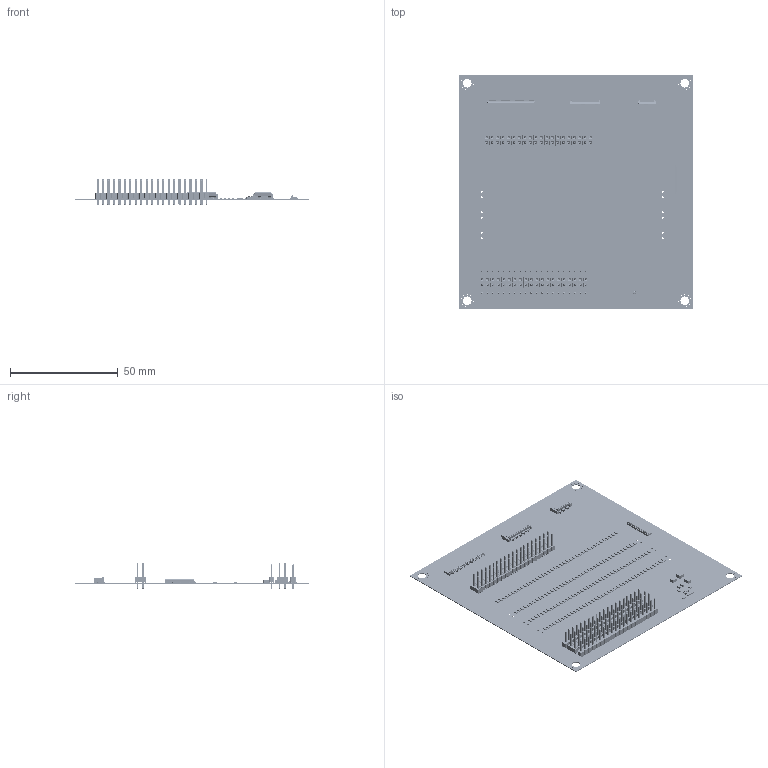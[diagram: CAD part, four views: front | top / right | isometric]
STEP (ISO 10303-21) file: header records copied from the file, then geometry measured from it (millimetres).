
FILE_DESCRIPTION (( 'STEP AP214' ), '1' );
FILE_NAME ('cfa_10102.STEP', '2020-08-27T22:46:13', ( '' ), ( '' ), 'SwSTEP 2.0', 'SolidWorks 2020', '' );
FILE_SCHEMA (( 'AUTOMOTIVE_DESIGN' ));
Length unit declared in the file: millimetre
Products named in the file (1): cfa_10102
Bounding box: 109 x 109 x 12.24 mm (x, y, z)
Surface area: 33613.4 mm2 (no closed solid volume)
Topology: 0 solids, 556 shells, 18219 faces, 50056 edges, 32264 vertices
Faces by surface type: plane 14457, cylinder 3627, bspline 135
Entity records: 582721 total; most frequent: CARTESIAN_POINT 129965, ORIENTED_EDGE 99406, DIRECTION 80705, EDGE_CURVE 50056, LINE 37355, VECTOR 37355, VERTEX_POINT 32264, AXIS2_PLACEMENT_3D 21675
